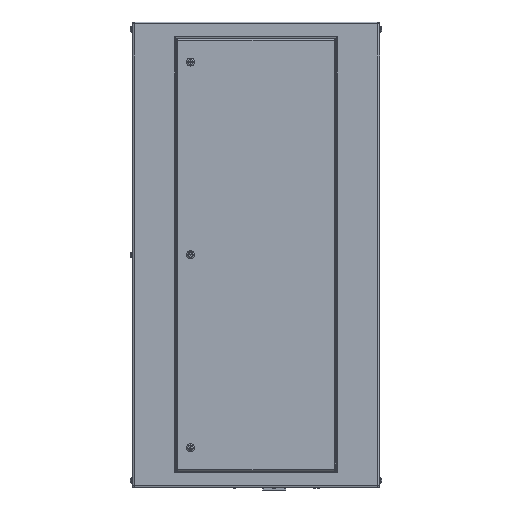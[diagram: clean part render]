
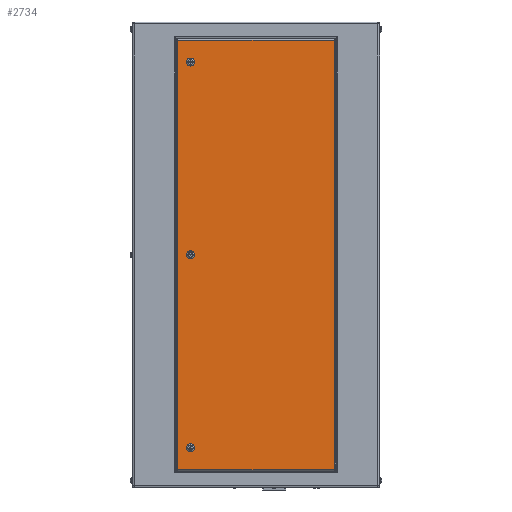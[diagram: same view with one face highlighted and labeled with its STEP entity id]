
A CAD part, left-side view. The second image highlights one B-rep face of the part: STEP entity #2734.
In plain terms, the highlighted planar face has unit normal (-1, 0, 0).
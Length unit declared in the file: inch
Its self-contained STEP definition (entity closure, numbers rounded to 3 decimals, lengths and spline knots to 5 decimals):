
#82 = CIRCLE ( 'NONE', #3267, 0.55 ) ;
#1118 = DIRECTION ( 'NONE',  ( 0., 0., -1. ) ) ;
#1391 = CARTESIAN_POINT ( 'NONE',  ( -18.5, 9., -27.05 ) ) ;
#1544 = DIRECTION ( 'NONE',  ( 0., -1., 0. ) ) ;
#2325 = CARTESIAN_POINT ( 'NONE',  ( -18.5, 17., -29.49 ) ) ;
#2657 = CARTESIAN_POINT ( 'NONE',  ( -18.5, 17., 29.49 ) ) ;
#2734 = ADVANCED_FACE ( 'NONE', ( #12086, #21333, #24505, #27656 ), #27267, .F. ) ;
#3230 = EDGE_CURVE ( 'NONE', #10629, #20914, #21661, .T. ) ;
#3267 = AXIS2_PLACEMENT_3D ( 'NONE', #22644, #28358, #1118 ) ;
#3407 = VECTOR ( 'NONE', #1544, 39.37008 ) ;
#3571 = DIRECTION ( 'NONE',  ( 0., 0., -1. ) ) ;
#3770 = ORIENTED_EDGE ( 'NONE', *, *, #15124, .T. ) ;
#4676 = AXIS2_PLACEMENT_3D ( 'NONE', #12640, #30001, #3571 ) ;
#5091 = CARTESIAN_POINT ( 'NONE',  ( -18.5, 9., -26.5 ) ) ;
#5248 = EDGE_CURVE ( 'NONE', #20914, #7491, #8790, .T. ) ;
#5269 = VERTEX_POINT ( 'NONE', #18424 ) ;
#7164 = EDGE_LOOP ( 'NONE', ( #3770, #33839, #8779, #25651 ) ) ;
#7267 = EDGE_CURVE ( 'NONE', #19590, #37723, #37744, .T. ) ;
#7491 = VERTEX_POINT ( 'NONE', #9176 ) ;
#7695 = VERTEX_POINT ( 'NONE', #24478 ) ;
#7979 = DIRECTION ( 'NONE',  ( 1., 0., 0. ) ) ;
#8359 = ORIENTED_EDGE ( 'NONE', *, *, #19297, .T. ) ;
#8460 = DIRECTION ( 'NONE',  ( 1., 0., 0. ) ) ;
#8779 = ORIENTED_EDGE ( 'NONE', *, *, #5248, .T. ) ;
#8790 = LINE ( 'NONE', #2657, #22446 ) ;
#8818 = ORIENTED_EDGE ( 'NONE', *, *, #35132, .T. ) ;
#9176 = CARTESIAN_POINT ( 'NONE',  ( -18.5, 10.74, 29.49 ) ) ;
#10519 = AXIS2_PLACEMENT_3D ( 'NONE', #25225, #37231, #33877 ) ;
#10629 = VERTEX_POINT ( 'NONE', #18138 ) ;
#10709 = DIRECTION ( 'NONE',  ( 0., 0., -1. ) ) ;
#11131 = VECTOR ( 'NONE', #14575, 39.37008 ) ;
#11825 = LINE ( 'NONE', #17730, #11131 ) ;
#12013 = DIRECTION ( 'NONE',  ( 0., 0., 1. ) ) ;
#12086 = FACE_BOUND ( 'NONE', #37090, .T. ) ;
#12113 = DIRECTION ( 'NONE',  ( 1., 0., 0. ) ) ;
#12640 = CARTESIAN_POINT ( 'NONE',  ( -18.5, 17., -32. ) ) ;
#12894 = CARTESIAN_POINT ( 'NONE',  ( -18.5, -10.74, 29.49 ) ) ;
#14069 = DIRECTION ( 'NONE',  ( 1., 0., 0. ) ) ;
#14575 = DIRECTION ( 'NONE',  ( 0., 0., -1. ) ) ;
#14810 = CARTESIAN_POINT ( 'NONE',  ( -18.5, 9., -0.55 ) ) ;
#15124 = EDGE_CURVE ( 'NONE', #17962, #10629, #22868, .T. ) ;
#15276 = CARTESIAN_POINT ( 'NONE',  ( -18.5, 9., 26.5 ) ) ;
#15894 = VERTEX_POINT ( 'NONE', #14810 ) ;
#16369 = AXIS2_PLACEMENT_3D ( 'NONE', #19399, #14069, #10709 ) ;
#17205 = DIRECTION ( 'NONE',  ( 0., 0., -1. ) ) ;
#17679 = ORIENTED_EDGE ( 'NONE', *, *, #29333, .T. ) ;
#17730 = CARTESIAN_POINT ( 'NONE',  ( -18.5, 10.74, -32. ) ) ;
#17962 = VERTEX_POINT ( 'NONE', #28127 ) ;
#18138 = CARTESIAN_POINT ( 'NONE',  ( -18.5, -10.74, -29.49 ) ) ;
#18424 = CARTESIAN_POINT ( 'NONE',  ( -18.5, 9., 27.05 ) ) ;
#18839 = EDGE_CURVE ( 'NONE', #7491, #17962, #11825, .T. ) ;
#19297 = EDGE_CURVE ( 'NONE', #37723, #19590, #28196, .T. ) ;
#19399 = CARTESIAN_POINT ( 'NONE',  ( -18.5, 9., 0. ) ) ;
#19429 = ORIENTED_EDGE ( 'NONE', *, *, #7267, .T. ) ;
#19590 = VERTEX_POINT ( 'NONE', #1391 ) ;
#20462 = VECTOR ( 'NONE', #12013, 39.37008 ) ;
#20795 = DIRECTION ( 'NONE',  ( 0., 1., 0. ) ) ;
#20914 = VERTEX_POINT ( 'NONE', #12894 ) ;
#21226 = CIRCLE ( 'NONE', #10519, 0.55 ) ;
#21333 = FACE_BOUND ( 'NONE', #36904, .T. ) ;
#21406 = CARTESIAN_POINT ( 'NONE',  ( -18.5, 9., 0.55 ) ) ;
#21661 = LINE ( 'NONE', #29956, #20462 ) ;
#22446 = VECTOR ( 'NONE', #20795, 39.37008 ) ;
#22644 = CARTESIAN_POINT ( 'NONE',  ( -18.5, 9., 26.5 ) ) ;
#22868 = LINE ( 'NONE', #2325, #3407 ) ;
#23710 = EDGE_LOOP ( 'NONE', ( #8818, #34760 ) ) ;
#23862 = CARTESIAN_POINT ( 'NONE',  ( -18.5, 9., -25.95 ) ) ;
#24163 = DIRECTION ( 'NONE',  ( 0., 0., -1. ) ) ;
#24427 = DIRECTION ( 'NONE',  ( 0., 0., -1. ) ) ;
#24478 = CARTESIAN_POINT ( 'NONE',  ( -18.5, 9., 25.95 ) ) ;
#24505 = FACE_BOUND ( 'NONE', #23710, .T. ) ;
#25225 = CARTESIAN_POINT ( 'NONE',  ( -18.5, 9., 0. ) ) ;
#25651 = ORIENTED_EDGE ( 'NONE', *, *, #18839, .T. ) ;
#25791 = ORIENTED_EDGE ( 'NONE', *, *, #32287, .T. ) ;
#27267 = PLANE ( 'NONE',  #4676 ) ;
#27656 = FACE_OUTER_BOUND ( 'NONE', #7164, .T. ) ;
#28127 = CARTESIAN_POINT ( 'NONE',  ( -18.5, 10.74, -29.49 ) ) ;
#28196 = CIRCLE ( 'NONE', #37641, 0.55 ) ;
#28358 = DIRECTION ( 'NONE',  ( 1., 0., 0. ) ) ;
#28460 = CIRCLE ( 'NONE', #36012, 0.55 ) ;
#28862 = CARTESIAN_POINT ( 'NONE',  ( -18.5, 9., -26.5 ) ) ;
#29333 = EDGE_CURVE ( 'NONE', #33208, #15894, #21226, .T. ) ;
#29956 = CARTESIAN_POINT ( 'NONE',  ( -18.5, -10.74, -32. ) ) ;
#30001 = DIRECTION ( 'NONE',  ( 1., 0., 0. ) ) ;
#30196 = AXIS2_PLACEMENT_3D ( 'NONE', #5091, #8460, #24427 ) ;
#30833 = CIRCLE ( 'NONE', #16369, 0.55 ) ;
#32287 = EDGE_CURVE ( 'NONE', #15894, #33208, #30833, .T. ) ;
#33208 = VERTEX_POINT ( 'NONE', #21406 ) ;
#33839 = ORIENTED_EDGE ( 'NONE', *, *, #3230, .T. ) ;
#33877 = DIRECTION ( 'NONE',  ( 0., 0., -1. ) ) ;
#34760 = ORIENTED_EDGE ( 'NONE', *, *, #38742, .T. ) ;
#35132 = EDGE_CURVE ( 'NONE', #7695, #5269, #82, .T. ) ;
#36012 = AXIS2_PLACEMENT_3D ( 'NONE', #15276, #12113, #24163 ) ;
#36904 = EDGE_LOOP ( 'NONE', ( #25791, #17679 ) ) ;
#37090 = EDGE_LOOP ( 'NONE', ( #19429, #8359 ) ) ;
#37231 = DIRECTION ( 'NONE',  ( 1., 0., 0. ) ) ;
#37641 = AXIS2_PLACEMENT_3D ( 'NONE', #28862, #7979, #17205 ) ;
#37723 = VERTEX_POINT ( 'NONE', #23862 ) ;
#37744 = CIRCLE ( 'NONE', #30196, 0.55 ) ;
#38742 = EDGE_CURVE ( 'NONE', #5269, #7695, #28460, .T. ) ;
